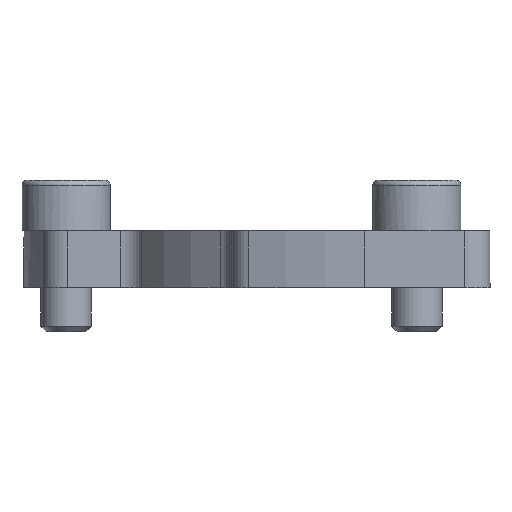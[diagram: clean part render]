
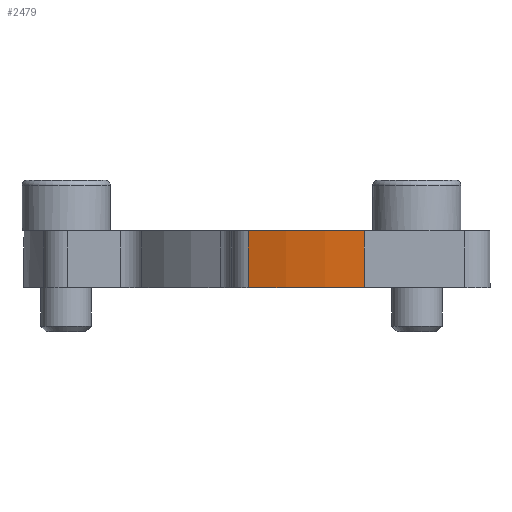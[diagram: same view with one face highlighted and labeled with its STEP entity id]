
A CAD part, front view. The second image highlights one B-rep face of the part: STEP entity #2479.
In plain terms, the highlighted cylindrical face has radius 27 mm (diameter 54 mm), a partial arc.
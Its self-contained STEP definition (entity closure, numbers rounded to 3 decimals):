
#604=CARTESIAN_POINT('',(0.,-27.,4.0));
#605=VERTEX_POINT('',#604);
#612=CARTESIAN_POINT('',(-9.18,-25.391,4.0));
#613=VERTEX_POINT('',#612);
#614=CARTESIAN_POINT('',(0.,0.,4.0));
#615=DIRECTION('',(0.0,0.0,1.0));
#616=DIRECTION('',(0.0,1.0,0.0));
#617=AXIS2_PLACEMENT_3D('',#614,#615,#616);
#618=CIRCLE('',#617,27.0);
#619=EDGE_CURVE('',#613,#605,#618,.T.);
#897=CARTESIAN_POINT('',(-9.18,-25.391,8.5));
#898=VERTEX_POINT('',#897);
#906=CARTESIAN_POINT('',(0.,-27.,8.5));
#907=VERTEX_POINT('',#906);
#908=CARTESIAN_POINT('',(0.,0.,8.5));
#909=DIRECTION('',(0.0,0.0,-1.0));
#910=DIRECTION('',(0.0,1.0,0.0));
#911=AXIS2_PLACEMENT_3D('',#908,#909,#910);
#912=CIRCLE('',#911,27.0);
#913=EDGE_CURVE('',#907,#898,#912,.T.);
#2453=CARTESIAN_POINT('',(0.,-27.,4.0));
#2454=DIRECTION('',(0.0,0.0,1.0));
#2455=VECTOR('',#2454,4.5);
#2456=LINE('',#2453,#2455);
#2457=EDGE_CURVE('',#605,#907,#2456,.T.);
#2463=CARTESIAN_POINT('',(0.,0.,4.0));
#2464=DIRECTION('',(0.,0.,1.0));
#2465=DIRECTION('',(0.0,1.0,0.0));
#2466=AXIS2_PLACEMENT_3D('',#2463,#2464,#2465);
#2467=CYLINDRICAL_SURFACE('',#2466,27.0);
#2468=ORIENTED_EDGE('',*,*,#2457,.T.);
#2469=ORIENTED_EDGE('',*,*,#913,.T.);
#2470=CARTESIAN_POINT('',(-9.18,-25.391,4.0));
#2471=DIRECTION('',(0.0,0.0,1.0));
#2472=VECTOR('',#2471,4.5);
#2473=LINE('',#2470,#2472);
#2474=EDGE_CURVE('',#613,#898,#2473,.T.);
#2475=ORIENTED_EDGE('',*,*,#2474,.F.);
#2476=ORIENTED_EDGE('',*,*,#619,.T.);
#2477=EDGE_LOOP('',(#2468,#2469,#2475,#2476));
#2478=FACE_OUTER_BOUND('',#2477,.T.);
#2479=ADVANCED_FACE('',(#2478),#2467,.T.);
